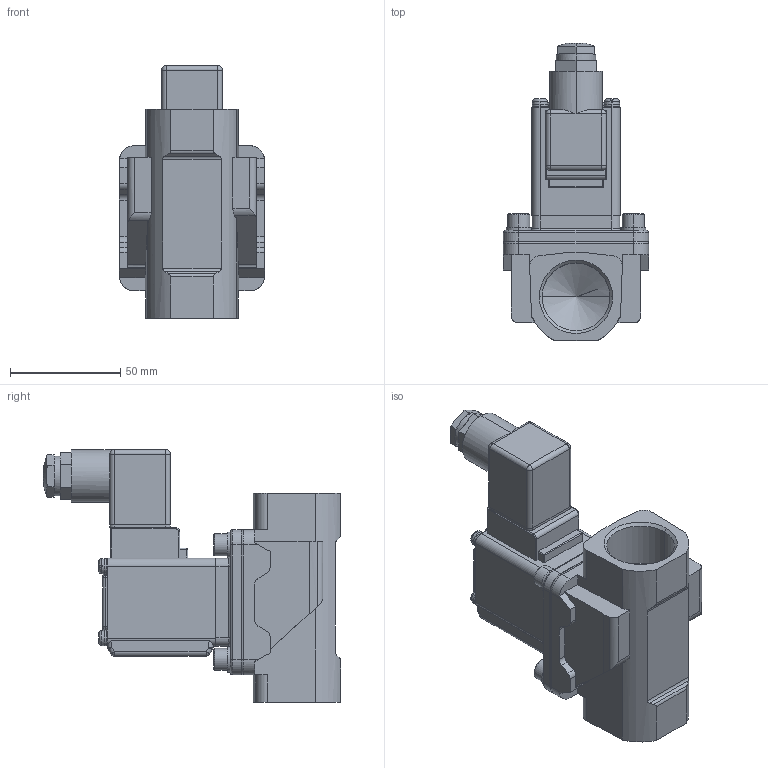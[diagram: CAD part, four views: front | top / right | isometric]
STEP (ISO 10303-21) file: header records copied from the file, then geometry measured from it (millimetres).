
FILE_DESCRIPTION (( 'STEP AP214' ), '1' );
FILE_NAME ('VXZ262LGK.step.step', '2023-02-06T15:11:23', ( '' ), ( '' ), 'SwSTEP 2.0', 'SolidWorks 2022', '' );
FILE_SCHEMA (( 'AUTOMOTIVE_DESIGN' ));
Length unit declared in the file: millimetre
Products named in the file (4): VXZ262LGK.step_DIN; VXZ262LGK.step; VXZ262LGK.step_Solenoid_Coil_5; VXZ262LGK.step_SUS_Body_6L
Assembly tree (3 placements, depth 2):
  VXZ262LGK.step
    VXZ262LGK.step_SUS_Body_6L
    VXZ262LGK.step_DIN
    VXZ262LGK.step_Solenoid_Coil_5
Bounding box: 66 x 134.93 x 114.8 mm (x, y, z)
Volume: 325498.3 mm3; surface area: 52350.9 mm2
Topology: 3 solids, 3 shells, 505 faces, 1251 edges, 756 vertices
Faces by surface type: plane 227, cylinder 174, cone 38, sphere 24, bspline 24, torus 18
Entity records: 20113 total; most frequent: CARTESIAN_POINT 6594, ORIENTED_EDGE 2446, DIRECTION 2425, EDGE_CURVE 1223, AXIS2_PLACEMENT_3D 883, VERTEX_POINT 756, VECTOR 659, LINE 659
